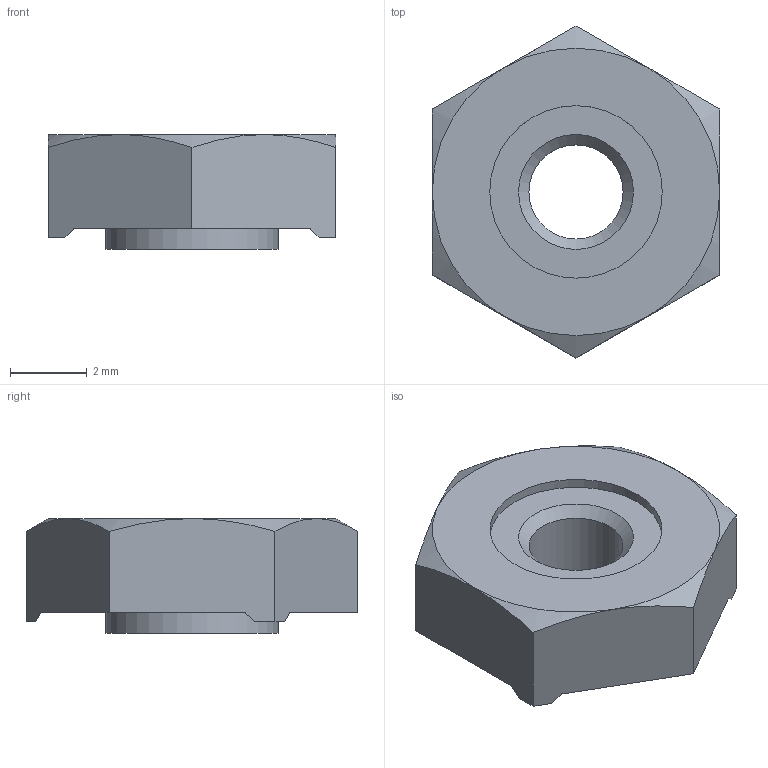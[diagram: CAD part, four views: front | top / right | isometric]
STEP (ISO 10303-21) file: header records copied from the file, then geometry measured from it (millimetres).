
FILE_DESCRIPTION(/* description */ (''),/* implementation_level */ '2;1');
FILE_NAME(/* name */ 'C:\Users\KHNAM\Downloads\WELD NUT;M3;DIN.stp',/* time_stamp */ '2021-01-14T15:09:35+09:00',/* author */ ('KHNAM'),/* organization */ ('Inatech'),/* preprocessor_version */ 'ST-DEVELOPER v18',/* originating_system */ 'Autodesk Inventor 2020',/* authorisation */ '');
FILE_SCHEMA (('AUTOMOTIVE_DESIGN { 1 0 10303 214 3 1 1 }'));
Length unit declared in the file: millimetre
Bounding box: 7.5 x 8.66 x 3 mm (x, y, z)
Volume: 110.1 mm3; surface area: 181 mm2
Topology: 1 solids, 1 shells, 27 faces, 66 edges, 43 vertices
Faces by surface type: plane 16, cone 8, cylinder 3
Full cylindrical faces by diameter (mm): 2.459 x1, 4.5 x2
Entity records: 828 total; most frequent: CARTESIAN_POINT 161, ORIENTED_EDGE 132, DIRECTION 129, EDGE_CURVE 66, AXIS2_PLACEMENT_3D 47, VERTEX_POINT 43, LINE 35, VECTOR 35
